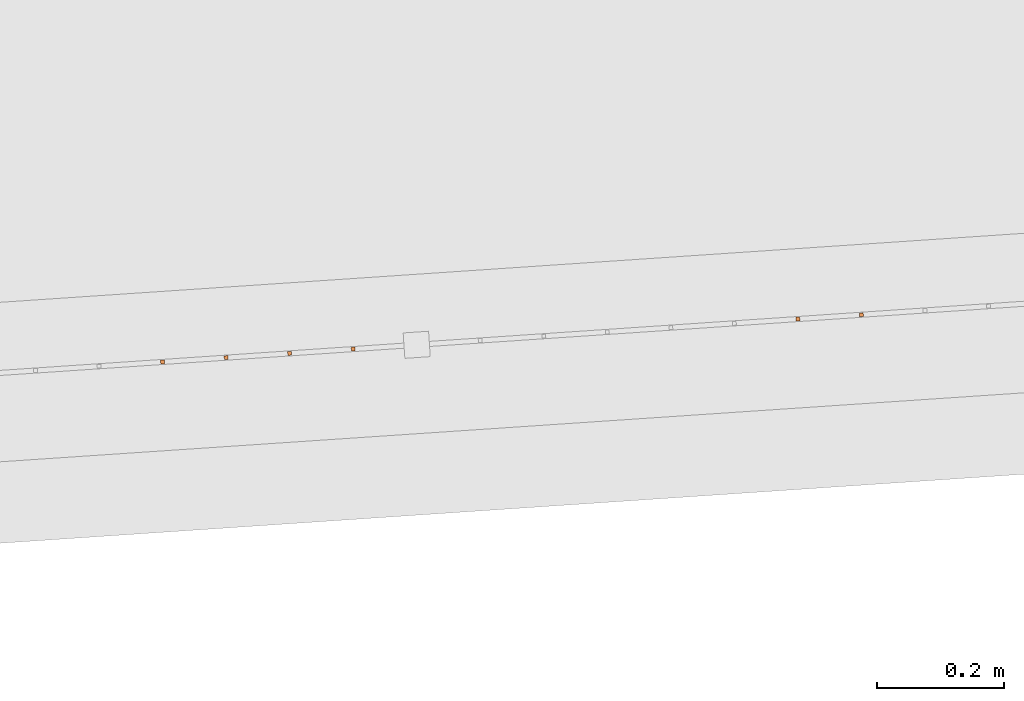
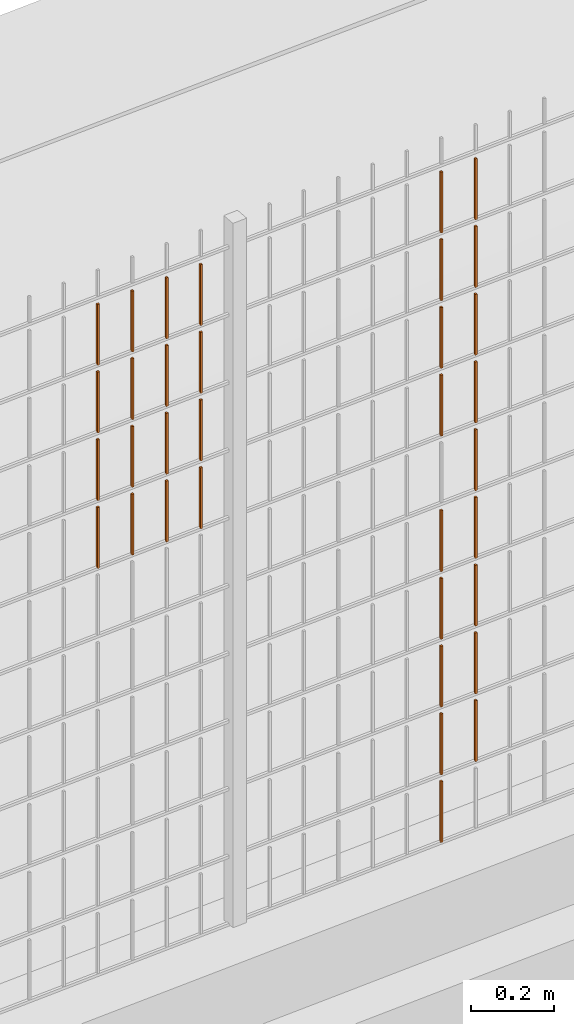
# One storey, part 204 of 1809: 34 proxies, 1 element without a shape of its own.
"""IFC2X3 building model written with IfcOpenShell, lengths in millimetres."""

from ifc_helpers import new_model, entity, si_unit, converted_unit, derived_unit, money_unit, direction, frame, origin_with_axes, place, context, subcontext, project, spatial, faceted_brep, source, transform, mapped, material, type_object, element, aggregate, save


model = new_model("IFC2X3")

# Units and contexts
model_context = context("Model", 3, precision=0.01, world=origin_with_axes(), true_north=direction((0.0, 1.0)))
body_context = subcontext(model_context, "Body", "Model", "MODEL_VIEW")
ifc_project = project(units=[si_unit("LENGTHUNIT", "METRE", prefix="MILLI"), si_unit("AREAUNIT", "SQUARE_METRE"), si_unit("VOLUMEUNIT", "CUBIC_METRE"), converted_unit("PLANEANGLEUNIT", "DEGREE", entity("IfcPlaneAngleMeasure", 0.0174532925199), si_unit("PLANEANGLEUNIT", "RADIAN"), dimensions=[0, 0, 0, 0, 0, 0, 0]), si_unit("SOLIDANGLEUNIT", "STERADIAN"), money_unit("EUR"), converted_unit("TIMEUNIT", "Year", entity("IfcTimeMeasure", 31556926.0), si_unit("TIMEUNIT", "SECOND"), dimensions=[0, 0, 1, 0, 0, 0, 0]), si_unit("MASSUNIT", "GRAM", prefix="KILO"), si_unit("THERMODYNAMICTEMPERATUREUNIT", "DEGREE_CELSIUS"), si_unit("LUMINOUSINTENSITYUNIT", "LUMEN"), si_unit("ENERGYUNIT", "JOULE", prefix="MEGA"), derived_unit("THERMALCONDUCTANCEUNIT", [(si_unit("POWERUNIT", "WATT"), 1), (si_unit("LENGTHUNIT", "METRE"), -1), (si_unit("THERMODYNAMICTEMPERATUREUNIT", "KELVIN"), -1)]), derived_unit("SPECIFICHEATCAPACITYUNIT", [(si_unit("ENERGYUNIT", "JOULE"), 1), (si_unit("MASSUNIT", "GRAM", prefix="KILO"), -1), (si_unit("THERMODYNAMICTEMPERATUREUNIT", "KELVIN"), -1)]), derived_unit("MASSDENSITYUNIT", [(si_unit("MASSUNIT", "GRAM", prefix="KILO"), 1), (si_unit("VOLUMEUNIT", "CUBIC_METRE"), -1)])], contexts=[model_context])

# Site, building, storey
site_placement = place(None, origin_with_axes())
site = spatial("IfcSite", under=ifc_project, at=site_placement, Name="Politse- ja Piirivalveameti ning Päästeameti ühishoone", CompositionType="ELEMENT")
building_placement = place(site_placement, origin_with_axes())
building = spatial("IfcBuilding", under=site, at=building_placement, Name="Politse- ja Piirivalveameti ning Päästeameti ühishoone", CompositionType="ELEMENT")
storey_placement = place(building_placement, origin_with_axes())
storey = spatial("IfcBuildingStorey", under=building, at=storey_placement, Name="Esimene korrus", CompositionType="ELEMENT", Elevation=0.0)

# Proxies
building_element_proxy_type_1 = type_object("IfcBuildingElementProxyType", Name="Railing Type", PredefinedType="NOTDEFINED")
proxy_1_placement = place(storey_placement, frame((89252.001212, -29183.4766571, 203.661247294), z_axis=(0.0, 0.0, 1.0), x_axis=(1.0, 0.0, 0.0)))
proxy_1 = element("IfcBuildingElementProxy", 1, at=proxy_1_placement, inside=storey, type_object=building_element_proxy_type_1, Name="PIIRDEAED")
ifc_material = material(Name="ET-03_Raud")
building_element_proxy_type_2 = type_object("IfcBuildingElementProxyType", Name="IfcBuildingElementProxy", PredefinedType="NOTDEFINED")
shared_shape_1 = source(origin_with_axes(), body_context, "Body", "Brep", [
    faceted_brep([(3.0, 3.0, -0.000752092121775), (-3.0, 3.0, -0.000752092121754), (-3.0, 3.0, 179.99926046), (3.0, 3.0, 179.99926046), (3.0, -3.0, 0.000752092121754), (-3.0, -3.0, 0.000752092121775), (-3.0, -3.0, 180.000764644), (3.0, -3.0, 180.000764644)], [[[0, 1, 2, 3]], [[0, 4, 5, 1]], [[1, 5, 6, 2]], [[3, 2, 6, 7]], [[4, 0, 3, 7]], [[5, 4, 7, 6]]]),
])
proxy_2_placement = place(proxy_1_placement, frame((-64978.6244134, -21686.8356202, 1810.90729586), z_axis=(0.0, 0.0, 1.0), x_axis=(1.0, 0.0, 0.0)))
proxy_2 = element("IfcBuildingElementProxy", 2, at=proxy_2_placement, type_object=building_element_proxy_type_2, material=ifc_material, Name="BALUSTER - 001", context=body_context, shape_type="MappedRepresentation", body=[
    mapped(shared_shape_1, transform((0.0, 0.0, 0.0), x_axis=(-0.0673926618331, 0.997726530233, 0.0), y_axis=(-0.997726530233, -0.0673926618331, 0.0), z_axis=(0.0, 0.0, 1.0))),
])
shared_shape_2 = source(origin_with_axes(), body_context, "Body", "Brep", [
    faceted_brep([(3.0, 3.0, -0.000752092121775), (-3.0, 3.0, -0.000752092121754), (-3.0, 3.0, 179.99926046), (3.0, 3.0, 179.99926046), (3.0, -3.0, 0.000752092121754), (-3.0, -3.0, 0.000752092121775), (-3.0, -3.0, 180.000764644), (3.0, -3.0, 180.000764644)], [[[0, 1, 2, 3]], [[0, 4, 5, 1]], [[1, 5, 6, 2]], [[3, 2, 6, 7]], [[4, 0, 3, 7]], [[5, 4, 7, 6]]]),
])
proxy_3_placement = place(proxy_1_placement, frame((-64978.6244134, -21686.8356202, 1210.90729586), z_axis=(0.0, 0.0, 1.0), x_axis=(1.0, 0.0, 0.0)))
proxy_3 = element("IfcBuildingElementProxy", 3, at=proxy_3_placement, type_object=building_element_proxy_type_2, material=ifc_material, Name="BALUSTER - 001", context=body_context, shape_type="MappedRepresentation", body=[
    mapped(shared_shape_2, transform((0.0, 0.0, 0.0), x_axis=(-0.0673926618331, 0.997726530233, 0.0), y_axis=(-0.997726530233, -0.0673926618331, 0.0), z_axis=(0.0, 0.0, 1.0))),
])
shared_shape_3 = source(origin_with_axes(), body_context, "Body", "Brep", [
    faceted_brep([(3.0, 3.0, -0.000752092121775), (-3.0, 3.0, -0.000752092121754), (-3.0, 3.0, 179.99926046), (3.0, 3.0, 179.99926046), (3.0, -3.0, 0.000752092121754), (-3.0, -3.0, 0.000752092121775), (-3.0, -3.0, 180.000764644), (3.0, -3.0, 180.000764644)], [[[0, 1, 2, 3]], [[0, 4, 5, 1]], [[1, 5, 6, 2]], [[3, 2, 6, 7]], [[4, 0, 3, 7]], [[5, 4, 7, 6]]]),
])
proxy_4_placement = place(proxy_1_placement, frame((-64978.6244134, -21686.8356202, 1410.90729586), z_axis=(0.0, 0.0, 1.0), x_axis=(1.0, 0.0, 0.0)))
proxy_4 = element("IfcBuildingElementProxy", 4, at=proxy_4_placement, type_object=building_element_proxy_type_2, material=ifc_material, Name="BALUSTER - 001", context=body_context, shape_type="MappedRepresentation", body=[
    mapped(shared_shape_3, transform((0.0, 0.0, 0.0), x_axis=(-0.0673926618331, 0.997726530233, 0.0), y_axis=(-0.997726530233, -0.0673926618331, 0.0), z_axis=(0.0, 0.0, 1.0))),
])
proxy_5_placement = place(proxy_1_placement, frame((-64978.6244134, -21686.8356202, 1610.90729586), z_axis=(0.0, 0.0, 1.0), x_axis=(1.0, 0.0, 0.0)))
proxy_5 = element("IfcBuildingElementProxy", 5, at=proxy_5_placement, type_object=building_element_proxy_type_2, material=ifc_material, Name="BALUSTER - 001", context=body_context, shape_type="MappedRepresentation", body=[
    mapped(shared_shape_3, transform((0.0, 0.0, 0.0), x_axis=(-0.0673926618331, 0.997726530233, 0.0), y_axis=(-0.997726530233, -0.0673926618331, 0.0), z_axis=(0.0, 0.0, 1.0))),
])
shared_shape_4 = source(origin_with_axes(), body_context, "Body", "Brep", [
    faceted_brep([(3.0, 3.0, -0.000752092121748), (-3.0, 3.0, -0.00075209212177), (-3.0, 3.0, 179.99926046), (3.0, 3.0, 179.99926046), (3.0, -3.0, 0.00075209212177), (-3.0, -3.0, 0.000752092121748), (-3.0, -3.0, 180.000764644), (3.0, -3.0, 180.000764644)], [[[0, 1, 2, 3]], [[0, 4, 5, 1]], [[1, 5, 6, 2]], [[3, 2, 6, 7]], [[4, 0, 3, 7]], [[5, 4, 7, 6]]]),
])
proxy_6_placement = place(proxy_1_placement, frame((-64080.6705361, -21626.1822246, 11.1329235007), z_axis=(0.0, 0.0, 1.0), x_axis=(1.0, 0.0, 0.0)))
proxy_6 = element("IfcBuildingElementProxy", 6, at=proxy_6_placement, type_object=building_element_proxy_type_2, material=ifc_material, Name="BALUSTER - 001", context=body_context, shape_type="MappedRepresentation", body=[
    mapped(shared_shape_4, transform((0.0, 0.0, 0.0), x_axis=(-0.0673926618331, 0.997726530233, 0.0), y_axis=(-0.997726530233, -0.0673926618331, 0.0), z_axis=(0.0, 0.0, 1.0))),
])
shared_shape_5 = source(origin_with_axes(), body_context, "Body", "Brep", [
    faceted_brep([(3.0, 3.0, -0.000752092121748), (-3.0, 3.0, -0.00075209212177), (-3.0, 3.0, 179.99926046), (3.0, 3.0, 179.99926046), (3.0, -3.0, 0.00075209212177), (-3.0, -3.0, 0.000752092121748), (-3.0, -3.0, 180.000764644), (3.0, -3.0, 180.000764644)], [[[0, 1, 2, 3]], [[0, 4, 5, 1]], [[1, 5, 6, 2]], [[3, 2, 6, 7]], [[4, 0, 3, 7]], [[5, 4, 7, 6]]]),
])
proxy_7_placement = place(proxy_1_placement, frame((-64080.6705361, -21626.1822246, 611.132923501), z_axis=(0.0, 0.0, 1.0), x_axis=(1.0, 0.0, 0.0)))
proxy_7 = element("IfcBuildingElementProxy", 7, at=proxy_7_placement, type_object=building_element_proxy_type_2, material=ifc_material, Name="BALUSTER - 001", context=body_context, shape_type="MappedRepresentation", body=[
    mapped(shared_shape_5, transform((0.0, 0.0, 0.0), x_axis=(-0.0673926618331, 0.997726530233, 0.0), y_axis=(-0.997726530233, -0.0673926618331, 0.0), z_axis=(0.0, 0.0, 1.0))),
])
shared_shape_6 = source(origin_with_axes(), body_context, "Body", "Brep", [
    faceted_brep([(3.0, 3.0, -0.000752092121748), (-3.0, 3.0, -0.00075209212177), (-3.0, 3.0, 179.99926046), (3.0, 3.0, 179.99926046), (3.0, -3.0, 0.00075209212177), (-3.0, -3.0, 0.000752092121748), (-3.0, -3.0, 180.000764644), (3.0, -3.0, 180.000764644)], [[[0, 1, 2, 3]], [[0, 4, 5, 1]], [[1, 5, 6, 2]], [[3, 2, 6, 7]], [[4, 0, 3, 7]], [[5, 4, 7, 6]]]),
])
proxy_8_placement = place(proxy_1_placement, frame((-64080.6705361, -21626.1822246, 411.132923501), z_axis=(0.0, 0.0, 1.0), x_axis=(1.0, 0.0, 0.0)))
proxy_8 = element("IfcBuildingElementProxy", 8, at=proxy_8_placement, type_object=building_element_proxy_type_2, material=ifc_material, Name="BALUSTER - 001", context=body_context, shape_type="MappedRepresentation", body=[
    mapped(shared_shape_6, transform((0.0, 0.0, 0.0), x_axis=(-0.0673926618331, 0.997726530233, 0.0), y_axis=(-0.997726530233, -0.0673926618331, 0.0), z_axis=(0.0, 0.0, 1.0))),
])
shared_shape_7 = source(origin_with_axes(), body_context, "Body", "Brep", [
    faceted_brep([(3.0, 3.0, -0.000752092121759), (-3.0, 3.0, -0.000752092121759), (-3.0, 3.0, 179.99926046), (3.0, 3.0, 179.99926046), (3.0, -3.0, 0.000752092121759), (-3.0, -3.0, 0.000752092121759), (-3.0, -3.0, 180.000764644), (3.0, -3.0, 180.000764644)], [[[0, 1, 2, 3]], [[0, 4, 5, 1]], [[1, 5, 6, 2]], [[3, 2, 6, 7]], [[4, 0, 3, 7]], [[5, 4, 7, 6]]]),
])
proxy_9_placement = place(proxy_1_placement, frame((-63980.8978831, -21619.4429584, 1211.15799324), z_axis=(0.0, 0.0, 1.0), x_axis=(1.0, 0.0, 0.0)))
proxy_9 = element("IfcBuildingElementProxy", 9, at=proxy_9_placement, type_object=building_element_proxy_type_2, material=ifc_material, Name="BALUSTER - 001", context=body_context, shape_type="MappedRepresentation", body=[
    mapped(shared_shape_7, transform((0.0, 0.0, 0.0), x_axis=(-0.0673926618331, 0.997726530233, 0.0), y_axis=(-0.997726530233, -0.0673926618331, 0.0), z_axis=(0.0, 0.0, 1.0))),
])
proxy_10_placement = place(proxy_1_placement, frame((-64878.8517603, -21680.0963541, 1210.9323656), z_axis=(0.0, 0.0, 1.0), x_axis=(1.0, 0.0, 0.0)))
proxy_10 = element("IfcBuildingElementProxy", 10, at=proxy_10_placement, type_object=building_element_proxy_type_2, material=ifc_material, Name="BALUSTER - 001", context=body_context, shape_type="MappedRepresentation", body=[
    mapped(shared_shape_7, transform((0.0, 0.0, 0.0), x_axis=(-0.0673926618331, 0.997726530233, 0.0), y_axis=(-0.997726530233, -0.0673926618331, 0.0), z_axis=(0.0, 0.0, 1.0))),
])
shared_shape_8 = source(origin_with_axes(), body_context, "Body", "Brep", [
    faceted_brep([(3.0, 3.0, -0.000752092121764), (-3.0, 3.0, -0.000752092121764), (-3.0, 3.0, 179.99926046), (3.0, 3.0, 179.99926046), (3.0, -3.0, 0.000752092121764), (-3.0, -3.0, 0.000752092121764), (-3.0, -3.0, 180.000764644), (3.0, -3.0, 180.000764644)], [[[0, 1, 2, 3]], [[0, 4, 5, 1]], [[1, 5, 6, 2]], [[3, 2, 6, 7]], [[4, 0, 3, 7]], [[5, 4, 7, 6]]]),
])
proxy_11_placement = place(proxy_1_placement, frame((-64080.6705361, -21626.1822246, 1811.1329235), z_axis=(0.0, 0.0, 1.0), x_axis=(1.0, 0.0, 0.0)))
proxy_11 = element("IfcBuildingElementProxy", 11, at=proxy_11_placement, type_object=building_element_proxy_type_2, material=ifc_material, Name="BALUSTER - 001", context=body_context, shape_type="MappedRepresentation", body=[
    mapped(shared_shape_8, transform((0.0, 0.0, 0.0), x_axis=(-0.0673926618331, 0.997726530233, 0.0), y_axis=(-0.997726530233, -0.0673926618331, 0.0), z_axis=(0.0, 0.0, 1.0))),
])
shared_shape_9 = source(origin_with_axes(), body_context, "Body", "Brep", [
    faceted_brep([(3.0, 3.0, -0.000752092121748), (-3.0, 3.0, -0.00075209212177), (-3.0, 3.0, 179.99926046), (3.0, 3.0, 179.99926046), (3.0, -3.0, 0.00075209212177), (-3.0, -3.0, 0.000752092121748), (-3.0, -3.0, 180.000764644), (3.0, -3.0, 180.000764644)], [[[0, 1, 2, 3]], [[0, 4, 5, 1]], [[1, 5, 6, 2]], [[3, 2, 6, 7]], [[4, 0, 3, 7]], [[5, 4, 7, 6]]]),
])
proxy_12_placement = place(proxy_1_placement, frame((-64779.0791073, -21673.3570879, 1810.95743534), z_axis=(0.0, 0.0, 1.0), x_axis=(1.0, 0.0, 0.0)))
proxy_12 = element("IfcBuildingElementProxy", 12, at=proxy_12_placement, type_object=building_element_proxy_type_2, material=ifc_material, Name="BALUSTER - 001", context=body_context, shape_type="MappedRepresentation", body=[
    mapped(shared_shape_9, transform((0.0, 0.0, 0.0), x_axis=(-0.0673926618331, 0.997726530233, 0.0), y_axis=(-0.997726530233, -0.0673926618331, 0.0), z_axis=(0.0, 0.0, 1.0))),
])
shared_shape_10 = source(origin_with_axes(), body_context, "Body", "Brep", [
    faceted_brep([(3.0, 3.0, -0.000752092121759), (-3.0, 3.0, -0.000752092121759), (-3.0, 3.0, 179.99926046), (3.0, 3.0, 179.99926046), (3.0, -3.0, 0.000752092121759), (-3.0, -3.0, 0.000752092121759), (-3.0, -3.0, 180.000764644), (3.0, -3.0, 180.000764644)], [[[0, 1, 2, 3]], [[0, 4, 5, 1]], [[1, 5, 6, 2]], [[3, 2, 6, 7]], [[4, 0, 3, 7]], [[5, 4, 7, 6]]]),
])
proxy_13_placement = place(proxy_1_placement, frame((-64878.8517603, -21680.0963541, 1810.9323656), z_axis=(0.0, 0.0, 1.0), x_axis=(1.0, 0.0, 0.0)))
proxy_13 = element("IfcBuildingElementProxy", 13, at=proxy_13_placement, type_object=building_element_proxy_type_2, material=ifc_material, Name="BALUSTER - 001", context=body_context, shape_type="MappedRepresentation", body=[
    mapped(shared_shape_10, transform((0.0, 0.0, 0.0), x_axis=(-0.0673926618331, 0.997726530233, 0.0), y_axis=(-0.997726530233, -0.0673926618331, 0.0), z_axis=(0.0, 0.0, 1.0))),
])
shared_shape_11 = source(origin_with_axes(), body_context, "Body", "Brep", [
    faceted_brep([(3.0, 3.0, -0.000752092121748), (-3.0, 3.0, -0.00075209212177), (-3.0, 3.0, 179.99926046), (3.0, 3.0, 179.99926046), (3.0, -3.0, 0.00075209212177), (-3.0, -3.0, 0.000752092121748), (-3.0, -3.0, 180.000764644), (3.0, -3.0, 180.000764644)], [[[0, 1, 2, 3]], [[0, 4, 5, 1]], [[1, 5, 6, 2]], [[3, 2, 6, 7]], [[4, 0, 3, 7]], [[5, 4, 7, 6]]]),
])
proxy_14_placement = place(proxy_1_placement, frame((-64080.6705361, -21626.1822246, 811.132923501), z_axis=(0.0, 0.0, 1.0), x_axis=(1.0, 0.0, 0.0)))
proxy_14 = element("IfcBuildingElementProxy", 14, at=proxy_14_placement, type_object=building_element_proxy_type_2, material=ifc_material, Name="BALUSTER - 001", context=body_context, shape_type="MappedRepresentation", body=[
    mapped(shared_shape_11, transform((0.0, 0.0, 0.0), x_axis=(-0.0673926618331, 0.997726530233, 0.0), y_axis=(-0.997726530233, -0.0673926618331, 0.0), z_axis=(0.0, 0.0, 1.0))),
])
proxy_15_placement = place(proxy_1_placement, frame((-64779.0791073, -21673.3570879, 1210.95743534), z_axis=(0.0, 0.0, 1.0), x_axis=(1.0, 0.0, 0.0)))
proxy_15 = element("IfcBuildingElementProxy", 15, at=proxy_15_placement, type_object=building_element_proxy_type_2, material=ifc_material, Name="BALUSTER - 001", context=body_context, shape_type="MappedRepresentation", body=[
    mapped(shared_shape_11, transform((0.0, 0.0, 0.0), x_axis=(-0.0673926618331, 0.997726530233, 0.0), y_axis=(-0.997726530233, -0.0673926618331, 0.0), z_axis=(0.0, 0.0, 1.0))),
])
shared_shape_12 = source(origin_with_axes(), body_context, "Body", "Brep", [
    faceted_brep([(3.0, 3.0, -0.000752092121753), (-3.0, 3.0, -0.000752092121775), (-3.0, 3.0, 179.99926046), (3.0, 3.0, 179.99926046), (3.0, -3.0, 0.000752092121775), (-3.0, -3.0, 0.000752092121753), (-3.0, -3.0, 180.000764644), (3.0, -3.0, 180.000764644)], [[[0, 1, 2, 3]], [[0, 4, 5, 1]], [[1, 5, 6, 2]], [[3, 2, 6, 7]], [[4, 0, 3, 7]], [[5, 4, 7, 6]]]),
])
proxy_16_placement = place(proxy_1_placement, frame((-65078.3970664, -21693.5748864, 1210.88222613), z_axis=(0.0, 0.0, 1.0), x_axis=(1.0, 0.0, 0.0)))
proxy_16 = element("IfcBuildingElementProxy", 16, at=proxy_16_placement, type_object=building_element_proxy_type_2, material=ifc_material, Name="BALUSTER - 001", context=body_context, shape_type="MappedRepresentation", body=[
    mapped(shared_shape_12, transform((0.0, 0.0, 0.0), x_axis=(-0.0673926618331, 0.997726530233, 0.0), y_axis=(-0.997726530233, -0.0673926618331, 0.0), z_axis=(0.0, 0.0, 1.0))),
])
shared_shape_13 = source(origin_with_axes(), body_context, "Body", "Brep", [
    faceted_brep([(3.0, 3.0, -0.000752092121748), (-3.0, 3.0, -0.00075209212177), (-3.0, 3.0, 179.99926046), (3.0, 3.0, 179.99926046), (3.0, -3.0, 0.00075209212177), (-3.0, -3.0, 0.000752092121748), (-3.0, -3.0, 180.000764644), (3.0, -3.0, 180.000764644)], [[[0, 1, 2, 3]], [[0, 4, 5, 1]], [[1, 5, 6, 2]], [[3, 2, 6, 7]], [[4, 0, 3, 7]], [[5, 4, 7, 6]]]),
])
proxy_17_placement = place(proxy_1_placement, frame((-64779.0791073, -21673.3570879, 1410.95743534), z_axis=(0.0, 0.0, 1.0), x_axis=(1.0, 0.0, 0.0)))
proxy_17 = element("IfcBuildingElementProxy", 17, at=proxy_17_placement, type_object=building_element_proxy_type_2, material=ifc_material, Name="BALUSTER - 001", context=body_context, shape_type="MappedRepresentation", body=[
    mapped(shared_shape_13, transform((0.0, 0.0, 0.0), x_axis=(-0.0673926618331, 0.997726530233, 0.0), y_axis=(-0.997726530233, -0.0673926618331, 0.0), z_axis=(0.0, 0.0, 1.0))),
])
proxy_18_placement = place(proxy_1_placement, frame((-64779.0791073, -21673.3570879, 1610.95743534), z_axis=(0.0, 0.0, 1.0), x_axis=(1.0, 0.0, 0.0)))
proxy_18 = element("IfcBuildingElementProxy", 18, at=proxy_18_placement, type_object=building_element_proxy_type_2, material=ifc_material, Name="BALUSTER - 001", context=body_context, shape_type="MappedRepresentation", body=[
    mapped(shared_shape_13, transform((0.0, 0.0, 0.0), x_axis=(-0.0673926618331, 0.997726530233, 0.0), y_axis=(-0.997726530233, -0.0673926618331, 0.0), z_axis=(0.0, 0.0, 1.0))),
])
shared_shape_14 = source(origin_with_axes(), body_context, "Body", "Brep", [
    faceted_brep([(3.0, 3.0, -0.000752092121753), (-3.0, 3.0, -0.000752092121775), (-3.0, 3.0, 179.99926046), (3.0, 3.0, 179.99926046), (3.0, -3.0, 0.000752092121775), (-3.0, -3.0, 0.000752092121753), (-3.0, -3.0, 180.000764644), (3.0, -3.0, 180.000764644)], [[[0, 1, 2, 3]], [[0, 4, 5, 1]], [[1, 5, 6, 2]], [[3, 2, 6, 7]], [[4, 0, 3, 7]], [[5, 4, 7, 6]]]),
])
proxy_19_placement = place(proxy_1_placement, frame((-65078.3970664, -21693.5748864, 1410.88222613), z_axis=(0.0, 0.0, 1.0), x_axis=(1.0, 0.0, 0.0)))
proxy_19 = element("IfcBuildingElementProxy", 19, at=proxy_19_placement, type_object=building_element_proxy_type_2, material=ifc_material, Name="BALUSTER - 001", context=body_context, shape_type="MappedRepresentation", body=[
    mapped(shared_shape_14, transform((0.0, 0.0, 0.0), x_axis=(-0.0673926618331, 0.997726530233, 0.0), y_axis=(-0.997726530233, -0.0673926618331, 0.0), z_axis=(0.0, 0.0, 1.0))),
])
proxy_20_placement = place(proxy_1_placement, frame((-65078.3970664, -21693.5748864, 1610.88222613), z_axis=(0.0, 0.0, 1.0), x_axis=(1.0, 0.0, 0.0)))
proxy_20 = element("IfcBuildingElementProxy", 20, at=proxy_20_placement, type_object=building_element_proxy_type_2, material=ifc_material, Name="BALUSTER - 001", context=body_context, shape_type="MappedRepresentation", body=[
    mapped(shared_shape_14, transform((0.0, 0.0, 0.0), x_axis=(-0.0673926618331, 0.997726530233, 0.0), y_axis=(-0.997726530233, -0.0673926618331, 0.0), z_axis=(0.0, 0.0, 1.0))),
])
shared_shape_15 = source(origin_with_axes(), body_context, "Body", "Brep", [
    faceted_brep([(3.0, 3.0, -0.000752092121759), (-3.0, 3.0, -0.000752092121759), (-3.0, 3.0, 179.99926046), (3.0, 3.0, 179.99926046), (3.0, -3.0, 0.000752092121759), (-3.0, -3.0, 0.000752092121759), (-3.0, -3.0, 180.000764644), (3.0, -3.0, 180.000764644)], [[[0, 1, 2, 3]], [[0, 4, 5, 1]], [[1, 5, 6, 2]], [[3, 2, 6, 7]], [[4, 0, 3, 7]], [[5, 4, 7, 6]]]),
])
proxy_21_placement = place(proxy_1_placement, frame((-63980.8978831, -21619.4429584, 1411.15799324), z_axis=(0.0, 0.0, 1.0), x_axis=(1.0, 0.0, 0.0)))
proxy_21 = element("IfcBuildingElementProxy", 21, at=proxy_21_placement, type_object=building_element_proxy_type_2, material=ifc_material, Name="BALUSTER - 001", context=body_context, shape_type="MappedRepresentation", body=[
    mapped(shared_shape_15, transform((0.0, 0.0, 0.0), x_axis=(-0.0673926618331, 0.997726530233, 0.0), y_axis=(-0.997726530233, -0.0673926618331, 0.0), z_axis=(0.0, 0.0, 1.0))),
])
proxy_22_placement = place(proxy_1_placement, frame((-63980.8978831, -21619.4429584, 1611.15799324), z_axis=(0.0, 0.0, 1.0), x_axis=(1.0, 0.0, 0.0)))
proxy_22 = element("IfcBuildingElementProxy", 22, at=proxy_22_placement, type_object=building_element_proxy_type_2, material=ifc_material, Name="BALUSTER - 001", context=body_context, shape_type="MappedRepresentation", body=[
    mapped(shared_shape_15, transform((0.0, 0.0, 0.0), x_axis=(-0.0673926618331, 0.997726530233, 0.0), y_axis=(-0.997726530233, -0.0673926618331, 0.0), z_axis=(0.0, 0.0, 1.0))),
])
proxy_23_placement = place(proxy_1_placement, frame((-64878.8517603, -21680.0963541, 1410.9323656), z_axis=(0.0, 0.0, 1.0), x_axis=(1.0, 0.0, 0.0)))
proxy_23 = element("IfcBuildingElementProxy", 23, at=proxy_23_placement, type_object=building_element_proxy_type_2, material=ifc_material, Name="BALUSTER - 001", context=body_context, shape_type="MappedRepresentation", body=[
    mapped(shared_shape_15, transform((0.0, 0.0, 0.0), x_axis=(-0.0673926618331, 0.997726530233, 0.0), y_axis=(-0.997726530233, -0.0673926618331, 0.0), z_axis=(0.0, 0.0, 1.0))),
])
proxy_24_placement = place(proxy_1_placement, frame((-64878.8517603, -21680.0963541, 1610.9323656), z_axis=(0.0, 0.0, 1.0), x_axis=(1.0, 0.0, 0.0)))
proxy_24 = element("IfcBuildingElementProxy", 24, at=proxy_24_placement, type_object=building_element_proxy_type_2, material=ifc_material, Name="BALUSTER - 001", context=body_context, shape_type="MappedRepresentation", body=[
    mapped(shared_shape_15, transform((0.0, 0.0, 0.0), x_axis=(-0.0673926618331, 0.997726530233, 0.0), y_axis=(-0.997726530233, -0.0673926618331, 0.0), z_axis=(0.0, 0.0, 1.0))),
])
shared_shape_16 = source(origin_with_axes(), body_context, "Body", "Brep", [
    faceted_brep([(3.0, 3.0, -0.000752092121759), (-3.0, 3.0, -0.000752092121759), (-3.0, 3.0, 179.99926046), (3.0, 3.0, 179.99926046), (3.0, -3.0, 0.000752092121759), (-3.0, -3.0, 0.000752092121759), (-3.0, -3.0, 180.000764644), (3.0, -3.0, 180.000764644)], [[[0, 1, 2, 3]], [[0, 4, 5, 1]], [[1, 5, 6, 2]], [[3, 2, 6, 7]], [[4, 0, 3, 7]], [[5, 4, 7, 6]]]),
])
proxy_25_placement = place(proxy_1_placement, frame((-63980.8978831, -21619.4429584, 1811.15799324), z_axis=(0.0, 0.0, 1.0), x_axis=(1.0, 0.0, 0.0)))
proxy_25 = element("IfcBuildingElementProxy", 25, at=proxy_25_placement, type_object=building_element_proxy_type_2, material=ifc_material, Name="BALUSTER - 001", context=body_context, shape_type="MappedRepresentation", body=[
    mapped(shared_shape_16, transform((0.0, 0.0, 0.0), x_axis=(-0.0673926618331, 0.997726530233, 0.0), y_axis=(-0.997726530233, -0.0673926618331, 0.0), z_axis=(0.0, 0.0, 1.0))),
])
shared_shape_17 = source(origin_with_axes(), body_context, "Body", "Brep", [
    faceted_brep([(3.0, 3.0, -0.000752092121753), (-3.0, 3.0, -0.000752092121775), (-3.0, 3.0, 179.99926046), (3.0, 3.0, 179.99926046), (3.0, -3.0, 0.000752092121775), (-3.0, -3.0, 0.000752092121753), (-3.0, -3.0, 180.000764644), (3.0, -3.0, 180.000764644)], [[[0, 1, 2, 3]], [[0, 4, 5, 1]], [[1, 5, 6, 2]], [[3, 2, 6, 7]], [[4, 0, 3, 7]], [[5, 4, 7, 6]]]),
])
proxy_26_placement = place(proxy_1_placement, frame((-65078.3970664, -21693.5748864, 1810.88222613), z_axis=(0.0, 0.0, 1.0), x_axis=(1.0, 0.0, 0.0)))
proxy_26 = element("IfcBuildingElementProxy", 26, at=proxy_26_placement, type_object=building_element_proxy_type_2, material=ifc_material, Name="BALUSTER - 001", context=body_context, shape_type="MappedRepresentation", body=[
    mapped(shared_shape_17, transform((0.0, 0.0, 0.0), x_axis=(-0.0673926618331, 0.997726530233, 0.0), y_axis=(-0.997726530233, -0.0673926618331, 0.0), z_axis=(0.0, 0.0, 1.0))),
])
shared_shape_18 = source(origin_with_axes(), body_context, "Body", "Brep", [
    faceted_brep([(3.0, 3.0, -0.000752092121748), (-3.0, 3.0, -0.00075209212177), (-3.0, 3.0, 179.99926046), (3.0, 3.0, 179.99926046), (3.0, -3.0, 0.00075209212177), (-3.0, -3.0, 0.000752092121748), (-3.0, -3.0, 180.000764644), (3.0, -3.0, 180.000764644)], [[[0, 1, 2, 3]], [[0, 4, 5, 1]], [[1, 5, 6, 2]], [[3, 2, 6, 7]], [[4, 0, 3, 7]], [[5, 4, 7, 6]]]),
])
proxy_27_placement = place(proxy_1_placement, frame((-64080.6705361, -21626.1822246, 211.132923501), z_axis=(0.0, 0.0, 1.0), x_axis=(1.0, 0.0, 0.0)))
proxy_27 = element("IfcBuildingElementProxy", 27, at=proxy_27_placement, type_object=building_element_proxy_type_2, material=ifc_material, Name="BALUSTER - 001", context=body_context, shape_type="MappedRepresentation", body=[
    mapped(shared_shape_18, transform((0.0, 0.0, 0.0), x_axis=(-0.0673926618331, 0.997726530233, 0.0), y_axis=(-0.997726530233, -0.0673926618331, 0.0), z_axis=(0.0, 0.0, 1.0))),
])
shared_shape_19 = source(origin_with_axes(), body_context, "Body", "Brep", [
    faceted_brep([(3.0, 3.0, -0.000752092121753), (-3.0, 3.0, -0.000752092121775), (-3.0, 3.0, 179.99926046), (3.0, 3.0, 179.99926046), (3.0, -3.0, 0.000752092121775), (-3.0, -3.0, 0.000752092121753), (-3.0, -3.0, 180.000764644), (3.0, -3.0, 180.000764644)], [[[0, 1, 2, 3]], [[0, 4, 5, 1]], [[1, 5, 6, 2]], [[3, 2, 6, 7]], [[4, 0, 3, 7]], [[5, 4, 7, 6]]]),
])
proxy_28_placement = place(proxy_1_placement, frame((-63980.8978831, -21619.4429584, 211.157993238), z_axis=(0.0, 0.0, 1.0), x_axis=(1.0, 0.0, 0.0)))
proxy_28 = element("IfcBuildingElementProxy", 28, at=proxy_28_placement, type_object=building_element_proxy_type_2, material=ifc_material, Name="BALUSTER - 001", context=body_context, shape_type="MappedRepresentation", body=[
    mapped(shared_shape_19, transform((0.0, 0.0, 0.0), x_axis=(-0.0673926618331, 0.997726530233, 0.0), y_axis=(-0.997726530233, -0.0673926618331, 0.0), z_axis=(0.0, 0.0, 1.0))),
])
proxy_29_placement = place(proxy_1_placement, frame((-63980.8978831, -21619.4429584, 411.157993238), z_axis=(0.0, 0.0, 1.0), x_axis=(1.0, 0.0, 0.0)))
proxy_29 = element("IfcBuildingElementProxy", 29, at=proxy_29_placement, type_object=building_element_proxy_type_2, material=ifc_material, Name="BALUSTER - 001", context=body_context, shape_type="MappedRepresentation", body=[
    mapped(shared_shape_19, transform((0.0, 0.0, 0.0), x_axis=(-0.0673926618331, 0.997726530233, 0.0), y_axis=(-0.997726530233, -0.0673926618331, 0.0), z_axis=(0.0, 0.0, 1.0))),
])
proxy_30_placement = place(proxy_1_placement, frame((-63980.8978831, -21619.4429584, 611.157993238), z_axis=(0.0, 0.0, 1.0), x_axis=(1.0, 0.0, 0.0)))
proxy_30 = element("IfcBuildingElementProxy", 30, at=proxy_30_placement, type_object=building_element_proxy_type_2, material=ifc_material, Name="BALUSTER - 001", context=body_context, shape_type="MappedRepresentation", body=[
    mapped(shared_shape_19, transform((0.0, 0.0, 0.0), x_axis=(-0.0673926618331, 0.997726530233, 0.0), y_axis=(-0.997726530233, -0.0673926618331, 0.0), z_axis=(0.0, 0.0, 1.0))),
])
shared_shape_20 = source(origin_with_axes(), body_context, "Body", "Brep", [
    faceted_brep([(3.0, 3.0, -0.000752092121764), (-3.0, 3.0, -0.000752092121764), (-3.0, 3.0, 179.99926046), (3.0, 3.0, 179.99926046), (3.0, -3.0, 0.000752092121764), (-3.0, -3.0, 0.000752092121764), (-3.0, -3.0, 180.000764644), (3.0, -3.0, 180.000764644)], [[[0, 1, 2, 3]], [[0, 4, 5, 1]], [[1, 5, 6, 2]], [[3, 2, 6, 7]], [[4, 0, 3, 7]], [[5, 4, 7, 6]]]),
])
proxy_31_placement = place(proxy_1_placement, frame((-64080.6705361, -21626.1822246, 1211.1329235), z_axis=(0.0, 0.0, 1.0), x_axis=(1.0, 0.0, 0.0)))
proxy_31 = element("IfcBuildingElementProxy", 31, at=proxy_31_placement, type_object=building_element_proxy_type_2, material=ifc_material, Name="BALUSTER - 001", context=body_context, shape_type="MappedRepresentation", body=[
    mapped(shared_shape_20, transform((0.0, 0.0, 0.0), x_axis=(-0.0673926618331, 0.997726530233, 0.0), y_axis=(-0.997726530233, -0.0673926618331, 0.0), z_axis=(0.0, 0.0, 1.0))),
])
shared_shape_21 = source(origin_with_axes(), body_context, "Body", "Brep", [
    faceted_brep([(3.0, 3.0, -0.000752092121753), (-3.0, 3.0, -0.000752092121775), (-3.0, 3.0, 179.99926046), (3.0, 3.0, 179.99926046), (3.0, -3.0, 0.000752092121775), (-3.0, -3.0, 0.000752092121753), (-3.0, -3.0, 180.000764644), (3.0, -3.0, 180.000764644)], [[[0, 1, 2, 3]], [[0, 4, 5, 1]], [[1, 5, 6, 2]], [[3, 2, 6, 7]], [[4, 0, 3, 7]], [[5, 4, 7, 6]]]),
])
proxy_32_placement = place(proxy_1_placement, frame((-63980.8978831, -21619.4429584, 811.157993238), z_axis=(0.0, 0.0, 1.0), x_axis=(1.0, 0.0, 0.0)))
proxy_32 = element("IfcBuildingElementProxy", 32, at=proxy_32_placement, type_object=building_element_proxy_type_2, material=ifc_material, Name="BALUSTER - 001", context=body_context, shape_type="MappedRepresentation", body=[
    mapped(shared_shape_21, transform((0.0, 0.0, 0.0), x_axis=(-0.0673926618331, 0.997726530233, 0.0), y_axis=(-0.997726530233, -0.0673926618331, 0.0), z_axis=(0.0, 0.0, 1.0))),
])
shared_shape_22 = source(origin_with_axes(), body_context, "Body", "Brep", [
    faceted_brep([(3.0, 3.0, -0.000752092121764), (-3.0, 3.0, -0.000752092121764), (-3.0, 3.0, 179.99926046), (3.0, 3.0, 179.99926046), (3.0, -3.0, 0.000752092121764), (-3.0, -3.0, 0.000752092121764), (-3.0, -3.0, 180.000764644), (3.0, -3.0, 180.000764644)], [[[0, 1, 2, 3]], [[0, 4, 5, 1]], [[1, 5, 6, 2]], [[3, 2, 6, 7]], [[4, 0, 3, 7]], [[5, 4, 7, 6]]]),
])
proxy_33_placement = place(proxy_1_placement, frame((-64080.6705361, -21626.1822246, 1411.1329235), z_axis=(0.0, 0.0, 1.0), x_axis=(1.0, 0.0, 0.0)))
proxy_33 = element("IfcBuildingElementProxy", 33, at=proxy_33_placement, type_object=building_element_proxy_type_2, material=ifc_material, Name="BALUSTER - 001", context=body_context, shape_type="MappedRepresentation", body=[
    mapped(shared_shape_22, transform((0.0, 0.0, 0.0), x_axis=(-0.0673926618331, 0.997726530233, 0.0), y_axis=(-0.997726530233, -0.0673926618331, 0.0), z_axis=(0.0, 0.0, 1.0))),
])
proxy_34_placement = place(proxy_1_placement, frame((-64080.6705361, -21626.1822246, 1611.1329235), z_axis=(0.0, 0.0, 1.0), x_axis=(1.0, 0.0, 0.0)))
proxy_34 = element("IfcBuildingElementProxy", 34, at=proxy_34_placement, type_object=building_element_proxy_type_2, material=ifc_material, Name="BALUSTER - 001", context=body_context, shape_type="MappedRepresentation", body=[
    mapped(shared_shape_22, transform((0.0, 0.0, 0.0), x_axis=(-0.0673926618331, 0.997726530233, 0.0), y_axis=(-0.997726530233, -0.0673926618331, 0.0), z_axis=(0.0, 0.0, 1.0))),
])
shared_shape_23 = source(origin_with_axes(), body_context, "Body", "Brep", [
    faceted_brep([(3.0, 3.0, -0.000752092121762), (-3.0, 3.0, -0.000752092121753), (-3.00000000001, 2.99999999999, 179.99926046), (2.99999999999, 2.99999999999, 179.99926046), (3.0, -3.0, 0.000752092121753), (-3.0, -3.0, 0.000752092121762), (-3.00000000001, -3.00000000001, 180.000764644), (2.99999999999, -3.00000000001, 180.000764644)], [[[0, 1, 2, 3]], [[0, 4, 5, 1]], [[1, 5, 6, 2]], [[3, 2, 6, 7]], [[4, 0, 3, 7]], [[5, 4, 7, 6]]]),
])
proxy_35_placement = place(proxy_1_placement, frame((-63980.8978831, -21619.4429584, 1011.15799324), z_axis=(0.0, 0.0, 1.0), x_axis=(1.0, 0.0, 0.0)))
proxy_35 = element("IfcBuildingElementProxy", 35, at=proxy_35_placement, type_object=building_element_proxy_type_2, material=ifc_material, Name="BALUSTER - 001", context=body_context, shape_type="MappedRepresentation", body=[
    mapped(shared_shape_23, transform((0.0, 0.0, 0.0), x_axis=(-0.0673926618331, 0.997726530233, 0.0), y_axis=(-0.997726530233, -0.0673926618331, 0.0), z_axis=(0.0, 0.0, 1.0))),
])
aggregate(proxy_1, [proxy_6, proxy_28, proxy_27, proxy_29, proxy_8, proxy_30, proxy_7, proxy_32, proxy_14, proxy_35, proxy_9, proxy_31, proxy_21, proxy_33, proxy_22, proxy_34, proxy_25, proxy_11, proxy_15, proxy_10, proxy_3, proxy_16, proxy_17, proxy_23, proxy_4, proxy_19, proxy_18, proxy_24, proxy_5, proxy_20, proxy_12, proxy_13, proxy_2, proxy_26])

save(model, "model.ifc")
